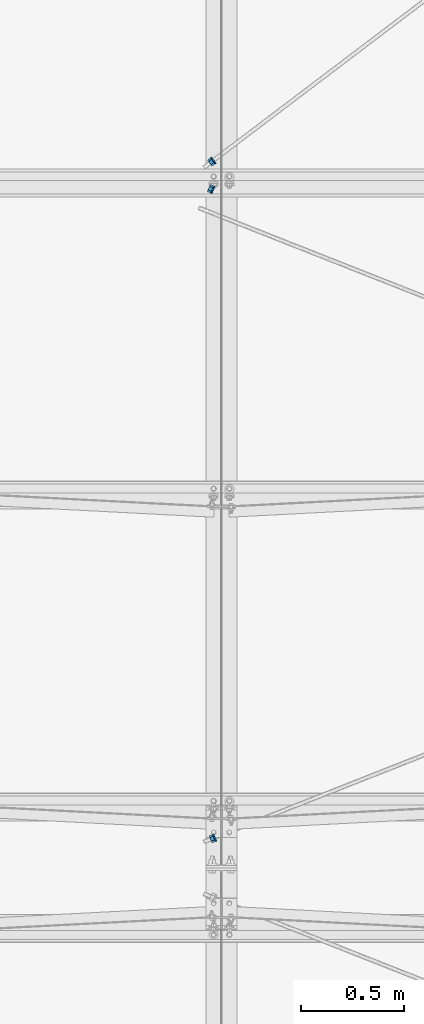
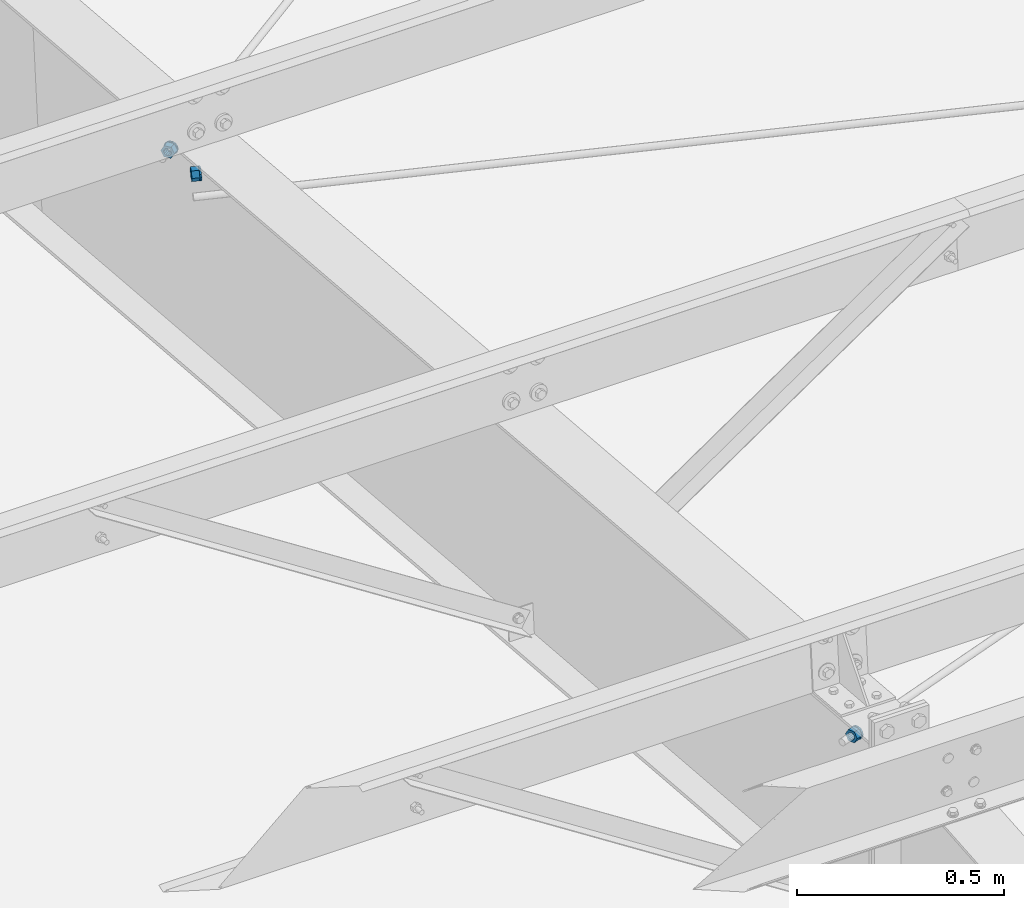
# One storey, part 34 of 185: 6 beams, 6 elements without a shape of their own.
"""IFC2X3 building model written with IfcOpenShell, lengths in millimetres."""

from ifc_helpers import new_model, si_unit, frame, origin_with_axes, place, context, subcontext, project, spatial, polyline, outline, extrude, material, type_object, element, aggregate, save


model = new_model("IFC2X3")

# Units and contexts
model_context = context("Model", 3, precision=1e-05, world=origin_with_axes())
body_context = subcontext(model_context, "Body", "Model", "MODEL_VIEW")
ifc_project = project(units=[si_unit("LENGTHUNIT", "METRE", prefix="MILLI"), si_unit("AREAUNIT", "SQUARE_METRE"), si_unit("VOLUMEUNIT", "CUBIC_METRE"), si_unit("MASSUNIT", "GRAM", prefix="KILO"), si_unit("TIMEUNIT", "SECOND"), si_unit("PLANEANGLEUNIT", "RADIAN"), si_unit("SOLIDANGLEUNIT", "STERADIAN"), si_unit("THERMODYNAMICTEMPERATUREUNIT", "DEGREE_CELSIUS"), si_unit("LUMINOUSINTENSITYUNIT", "LUMEN")], contexts=[model_context])

# Site, building, storey
site_placement = place(None, origin_with_axes())
site = spatial("IfcSite", under=ifc_project, at=site_placement, Name="Undefined", CompositionType="ELEMENT")
building_placement = place(site_placement, origin_with_axes())
building = spatial("IfcBuilding", under=site, at=building_placement, Name="Undefined", CompositionType="ELEMENT")
storey_placement = place(building_placement, origin_with_axes())
storey = spatial("IfcBuildingStorey", under=building, at=storey_placement, Name="Undefined", CompositionType="ELEMENT", Elevation=0.0)

# Assembly, beam
assembly_1_placement = place(storey_placement, origin_with_axes())
assembly_1 = element("IfcElementAssembly", 1, at=assembly_1_placement, inside=storey, Name="Steel Assembly", AssemblyPlace="NOTDEFINED", PredefinedType="RIGID_FRAME")
ifc_material = material(Name="STEEL/55")
beam_type_1 = type_object("IfcBeamType", Name="3/4_HEAVY_HEX_NUT", PredefinedType="NOTDEFINED")
beam_1_placement = place(assembly_1_placement, frame((7194.92486649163, 19301.4769855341, 6891.68541323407), z_axis=(0.0291708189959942, -0.0117841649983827, -0.999504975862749), x_axis=(-0.925462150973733, 0.377531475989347, -0.0314609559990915)))
beam_1 = element("IfcBeam", 2, at=beam_1_placement, type_object=beam_type_1, material=ifc_material, Name="3/4 H HEX NUT A563", ObjectType="3/4_HEAVY_HEX_NUT", context=body_context, shape_type="SweptSolid", body=[
    extrude(outline(polyline([(9.13000011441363, -15.810000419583), (-9.13000011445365, -15.810000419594), (-18.2600002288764, 1.54614099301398e-11), (-9.13000011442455, 15.8100004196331), (9.13000011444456, 15.8100004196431), (18.2600002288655, 3.36513039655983e-11), (9.13000011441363, -15.810000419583)]), holes=[polyline([(-8.06850066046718, 6.43441456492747), (-10.061255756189, 2.29641597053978), (-10.0612557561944, -2.29641597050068), (-8.06850066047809, -6.43441456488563), (-4.47768005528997, -9.29799844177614), (-1.09139364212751e-11, -10.3199996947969), (4.47768005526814, -9.29799844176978), (8.0685006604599, -6.43441456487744), (10.0612557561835, -2.29641597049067), (10.0612557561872, 2.2964159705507), (8.06850066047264, 6.43441456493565), (4.47768005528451, 9.29799844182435), (7.27595761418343e-12, 10.319999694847), (-4.47768005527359, 9.2979984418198), (-8.06850066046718, 6.43441456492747)])]), frame((19.0500000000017, 0.0, 2.58175642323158e-19), z_axis=(-1.0, 0.0, 0.0), x_axis=(0.0, -1.0, 0.0)), (0.0, 0.0, 1.0), 19.0),
])
aggregate(assembly_1, [beam_1])

assembly_2_placement = place(storey_placement, origin_with_axes())
assembly_2 = element("IfcElementAssembly", 3, at=assembly_2_placement, inside=storey, Name="Steel Assembly", AssemblyPlace="NOTDEFINED", PredefinedType="RIGID_FRAME")
beam_2_placement = place(assembly_2_placement, frame((7203.76051803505, 16147.9208032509, 7154.48176373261), z_axis=(0.0294196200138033, 0.0114664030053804, 0.999501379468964), x_axis=(-0.924920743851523, -0.378846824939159, 0.0315705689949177)))
beam_2 = element("IfcBeam", 4, at=beam_2_placement, type_object=beam_type_1, material=ifc_material, Name="3/4 H HEX NUT A563", ObjectType="3/4_HEAVY_HEX_NUT", context=body_context, shape_type="SweptSolid", body=[
    extrude(outline(polyline([(9.13000011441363, -15.810000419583), (-9.13000011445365, -15.810000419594), (-18.2600002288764, 1.54614099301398e-11), (-9.13000011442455, 15.8100004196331), (9.13000011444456, 15.8100004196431), (18.2600002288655, 3.36513039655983e-11), (9.13000011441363, -15.810000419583)]), holes=[polyline([(-8.06850066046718, 6.43441456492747), (-10.061255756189, 2.29641597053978), (-10.0612557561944, -2.29641597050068), (-8.06850066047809, -6.43441456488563), (-4.47768005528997, -9.29799844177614), (-1.09139364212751e-11, -10.3199996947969), (4.47768005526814, -9.29799844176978), (8.0685006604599, -6.43441456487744), (10.0612557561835, -2.29641597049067), (10.0612557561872, 2.2964159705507), (8.06850066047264, 6.43441456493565), (4.47768005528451, 9.29799844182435), (7.27595761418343e-12, 10.319999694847), (-4.47768005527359, 9.2979984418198), (-8.06850066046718, 6.43441456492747)])]), frame((19.0500000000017, 0.0, 2.58175642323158e-19), z_axis=(-1.0, 0.0, 0.0), x_axis=(0.0, -1.0, 0.0)), (0.0, 0.0, 1.0), 19.0),
])
aggregate(assembly_2, [beam_2])

assembly_3_placement = place(storey_placement, origin_with_axes())
assembly_3 = element("IfcElementAssembly", 5, at=assembly_3_placement, inside=storey, Name="Steel Assembly", AssemblyPlace="NOTDEFINED", PredefinedType="RIGID_FRAME")
beam_3_placement = place(assembly_3_placement, frame((7197.29105498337, 19441.7536639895, 6879.99568677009), z_axis=(0.0403834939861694, 0.0299076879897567, 0.998736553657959), x_axis=(-0.796162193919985, -0.602993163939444, 0.0502494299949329)))
beam_3 = element("IfcBeam", 6, at=beam_3_placement, type_object=beam_type_1, material=ifc_material, Name="3/4 H HEX NUT A563", ObjectType="3/4_HEAVY_HEX_NUT", context=body_context, shape_type="SweptSolid", body=[
    extrude(outline(polyline([(9.13000011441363, -15.810000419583), (-9.13000011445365, -15.810000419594), (-18.2600002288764, 1.54614099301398e-11), (-9.13000011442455, 15.8100004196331), (9.13000011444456, 15.8100004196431), (18.2600002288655, 3.36513039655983e-11), (9.13000011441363, -15.810000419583)]), holes=[polyline([(-8.06850066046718, 6.43441456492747), (-10.061255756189, 2.29641597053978), (-10.0612557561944, -2.29641597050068), (-8.06850066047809, -6.43441456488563), (-4.47768005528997, -9.29799844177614), (-1.09139364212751e-11, -10.3199996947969), (4.47768005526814, -9.29799844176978), (8.0685006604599, -6.43441456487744), (10.0612557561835, -2.29641597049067), (10.0612557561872, 2.2964159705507), (8.06850066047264, 6.43441456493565), (4.47768005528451, 9.29799844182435), (7.27595761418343e-12, 10.319999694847), (-4.47768005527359, 9.2979984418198), (-8.06850066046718, 6.43441456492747)])]), frame((19.0500000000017, 0.0, 2.58175642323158e-19), z_axis=(-1.0, 0.0, 0.0), x_axis=(0.0, -1.0, 0.0)), (0.0, 0.0, 1.0), 19.0),
])
aggregate(assembly_3, [beam_3])

assembly_4_placement = place(storey_placement, origin_with_axes())
assembly_4 = element("IfcElementAssembly", 7, at=assembly_4_placement, inside=storey, Name="Steel Assembly", AssemblyPlace="NOTDEFINED", PredefinedType="RIGID_FRAME")
beam_type_2 = type_object("IfcBeamType", Name="3/4_WASHER", PredefinedType="NOTDEFINED")
beam_4_placement = place(assembly_4_placement, frame((7199.33237998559, 19299.6789918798, 6891.83524603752), z_axis=(0.0291708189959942, -0.0117841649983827, -0.999504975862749), x_axis=(-0.925462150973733, 0.377531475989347, -0.0314609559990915)))
beam_4 = element("IfcBeam", 8, at=beam_4_placement, type_object=beam_type_2, material=ifc_material, Name="3/4 WASHER F844", ObjectType="3/4_WASHER", context=body_context, shape_type="SweptSolid", body=[
    extrude(outline(polyline([(-11.6280845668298, -14.5811568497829), (-16.8030690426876, -8.09193156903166), (-18.649999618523, -4.54747350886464e-12), (-16.8030690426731, 8.09193156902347), (-11.6280845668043, 14.5811568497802), (-4.15001533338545, 18.1824051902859), (4.15001533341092, 18.1824051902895), (11.628084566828, 14.5811568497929), (16.8030690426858, 8.09193156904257), (18.6499996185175, 1.45519152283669e-11), (16.8030690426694, -8.09193156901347), (11.6280845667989, -14.5811568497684), (4.15001533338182, -18.182405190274), (-4.15001533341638, -18.1824051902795), (-11.6280845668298, -14.5811568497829)]), holes=[polyline([(-8.06850066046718, 6.43441456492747), (-10.061255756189, 2.29641597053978), (-10.0612557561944, -2.29641597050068), (-8.06850066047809, -6.43441456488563), (-4.47768005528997, -9.29799844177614), (-1.09139364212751e-11, -10.3199996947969), (4.47768005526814, -9.29799844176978), (8.0685006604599, -6.43441456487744), (10.0612557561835, -2.29641597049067), (10.0612557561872, 2.2964159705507), (8.06850066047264, 6.43441456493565), (4.47768005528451, 9.29799844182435), (7.27595761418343e-12, 10.319999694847), (-4.47768005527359, 9.2979984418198), (-8.06850066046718, 6.43441456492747)])]), frame((4.76250000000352, 2.6437185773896e-16, 5.6843418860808e-14), z_axis=(-1.0, 0.0, 0.0), x_axis=(0.0, -1.0, 0.0)), (0.0, 0.0, 1.0), 4.8),
])
aggregate(assembly_4, [beam_4])

assembly_5_placement = place(storey_placement, origin_with_axes())
assembly_5 = element("IfcElementAssembly", 9, at=assembly_5_placement, inside=storey, Name="Steel Assembly", AssemblyPlace="NOTDEFINED", PredefinedType="RIGID_FRAME")
beam_5_placement = place(assembly_5_placement, frame((7208.16545307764, 16149.7250612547, 7154.33140889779), z_axis=(0.0294196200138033, 0.0114664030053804, 0.999501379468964), x_axis=(-0.924920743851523, -0.378846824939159, 0.0315705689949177)))
beam_5 = element("IfcBeam", 10, at=beam_5_placement, type_object=beam_type_2, material=ifc_material, Name="3/4 WASHER F844", ObjectType="3/4_WASHER", context=body_context, shape_type="SweptSolid", body=[
    extrude(outline(polyline([(-11.6280845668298, -14.5811568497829), (-16.8030690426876, -8.09193156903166), (-18.649999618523, -4.54747350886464e-12), (-16.8030690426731, 8.09193156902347), (-11.6280845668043, 14.5811568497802), (-4.15001533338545, 18.1824051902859), (4.15001533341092, 18.1824051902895), (11.628084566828, 14.5811568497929), (16.8030690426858, 8.09193156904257), (18.6499996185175, 1.45519152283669e-11), (16.8030690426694, -8.09193156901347), (11.6280845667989, -14.5811568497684), (4.15001533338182, -18.182405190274), (-4.15001533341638, -18.1824051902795), (-11.6280845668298, -14.5811568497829)]), holes=[polyline([(-8.06850066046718, 6.43441456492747), (-10.061255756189, 2.29641597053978), (-10.0612557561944, -2.29641597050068), (-8.06850066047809, -6.43441456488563), (-4.47768005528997, -9.29799844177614), (-1.09139364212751e-11, -10.3199996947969), (4.47768005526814, -9.29799844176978), (8.0685006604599, -6.43441456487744), (10.0612557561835, -2.29641597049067), (10.0612557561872, 2.2964159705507), (8.06850066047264, 6.43441456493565), (4.47768005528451, 9.29799844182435), (7.27595761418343e-12, 10.319999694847), (-4.47768005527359, 9.2979984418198), (-8.06850066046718, 6.43441456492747)])]), frame((4.76250000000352, 2.6437185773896e-16, 5.6843418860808e-14), z_axis=(-1.0, 0.0, 0.0), x_axis=(0.0, -1.0, 0.0)), (0.0, 0.0, 1.0), 4.8),
])
aggregate(assembly_5, [beam_5])

assembly_6_placement = place(storey_placement, origin_with_axes())
assembly_6 = element("IfcElementAssembly", 11, at=assembly_6_placement, inside=storey, Name="Steel Assembly", AssemblyPlace="NOTDEFINED", PredefinedType="RIGID_FRAME")
beam_6_placement = place(assembly_6_placement, frame((7201.08277743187, 19444.6254189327, 6879.75637385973), z_axis=(0.0403834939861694, 0.0299076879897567, 0.998736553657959), x_axis=(-0.796162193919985, -0.602993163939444, 0.0502494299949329)))
beam_6 = element("IfcBeam", 12, at=beam_6_placement, type_object=beam_type_2, material=ifc_material, Name="3/4 WASHER F844", ObjectType="3/4_WASHER", context=body_context, shape_type="SweptSolid", body=[
    extrude(outline(polyline([(-11.6280845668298, -14.5811568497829), (-16.8030690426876, -8.09193156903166), (-18.649999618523, -4.54747350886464e-12), (-16.8030690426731, 8.09193156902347), (-11.6280845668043, 14.5811568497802), (-4.15001533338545, 18.1824051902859), (4.15001533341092, 18.1824051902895), (11.628084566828, 14.5811568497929), (16.8030690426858, 8.09193156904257), (18.6499996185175, 1.45519152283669e-11), (16.8030690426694, -8.09193156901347), (11.6280845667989, -14.5811568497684), (4.15001533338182, -18.182405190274), (-4.15001533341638, -18.1824051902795), (-11.6280845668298, -14.5811568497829)]), holes=[polyline([(-8.06850066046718, 6.43441456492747), (-10.061255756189, 2.29641597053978), (-10.0612557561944, -2.29641597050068), (-8.06850066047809, -6.43441456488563), (-4.47768005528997, -9.29799844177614), (-1.09139364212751e-11, -10.3199996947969), (4.47768005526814, -9.29799844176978), (8.0685006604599, -6.43441456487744), (10.0612557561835, -2.29641597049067), (10.0612557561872, 2.2964159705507), (8.06850066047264, 6.43441456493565), (4.47768005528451, 9.29799844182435), (7.27595761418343e-12, 10.319999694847), (-4.47768005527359, 9.2979984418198), (-8.06850066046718, 6.43441456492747)])]), frame((4.76250000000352, 2.6437185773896e-16, 5.6843418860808e-14), z_axis=(-1.0, 0.0, 0.0), x_axis=(0.0, -1.0, 0.0)), (0.0, 0.0, 1.0), 4.8),
])
aggregate(assembly_6, [beam_6])

save(model, "model.ifc")
